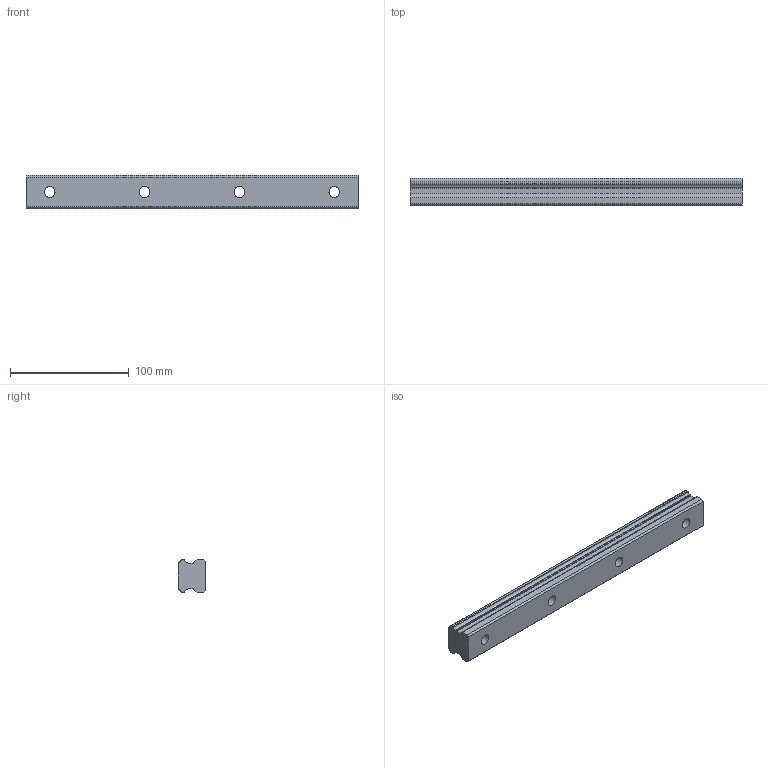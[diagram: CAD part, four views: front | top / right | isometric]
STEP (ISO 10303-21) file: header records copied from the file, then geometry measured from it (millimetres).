
FILE_DESCRIPTION(/* description */ ('STEP AP203'),/* implementation_level */ '2;1');
FILE_NAME(/* name */ 'SHS30-280L(GK) RAIL(20)',/* time_stamp */ '2024-05-14T03:42:08+02:00',/* author */ ('License CC BY-ND 4.0'),/* organization */ ('CADENAS'),/* preprocessor_version */ 'ST-DEVELOPER v19.3',/* originating_system */ 'PARTsolutions',/* authorisation */ ' ');
FILE_SCHEMA (('CONFIG_CONTROL_DESIGN'));
Length unit declared in the file: millimetre
Products named in the file (1): SHS30-280L(GK) RAIL(20)
Bounding box: 280 x 23 x 28 mm (x, y, z)
Volume: 152223 mm3; surface area: 32834.1 mm2
Topology: 1 solids, 1 shells, 46 faces, 120 edges, 80 vertices
Faces by surface type: cylinder 26, plane 20
Full cylindrical faces by diameter (mm): 9 x4, 14 x4
Entity records: 1442 total; most frequent: DIRECTION 258, CARTESIAN_POINT 239, ORIENTED_EDGE 224, EDGE_CURVE 112, AXIS2_PLACEMENT_3D 99, VERTEX_POINT 80, EDGE_LOOP 66, FACE_BOUND 66
